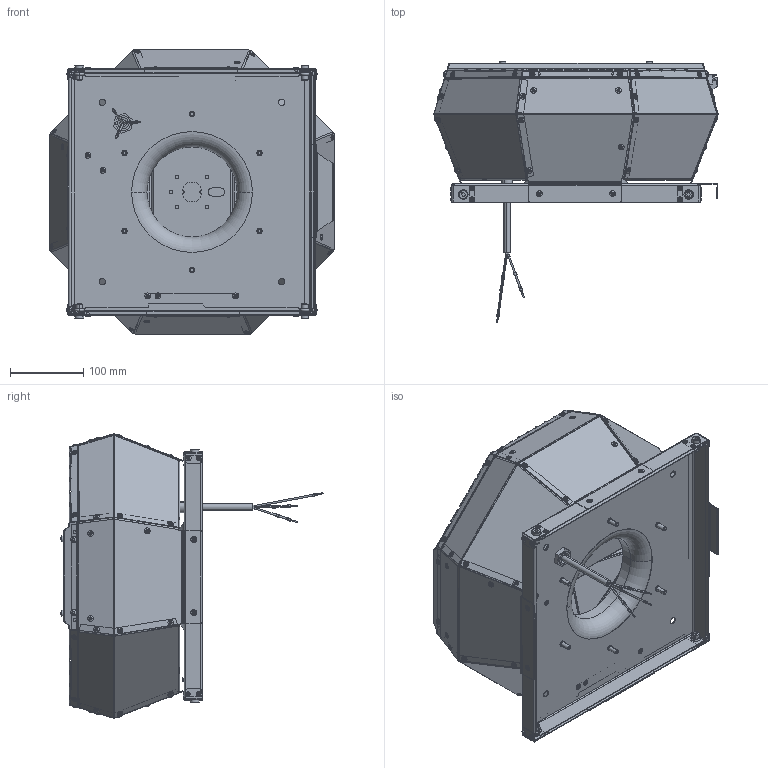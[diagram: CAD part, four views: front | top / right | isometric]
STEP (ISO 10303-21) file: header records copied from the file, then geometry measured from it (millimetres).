
FILE_DESCRIPTION (( 'STEP AP203' ), '1' );
FILE_NAME ('139345-00_DVA190E2P31.STEP', '2017-03-31T13:02:59', ( '' ), ( '' ), 'SwSTEP 2.0', 'SolidWorks 2012', '' );
FILE_SCHEMA (( 'CONFIG_CONTROL_DESIGN' ));
Products named in the file (1): 139345-00_DVA190E2P31
Bounding box: 388.45 x 357.99 x 388.42 mm (x, y, z)
Surface area: 1093033.3 mm2 (no closed solid volume)
Topology: 0 solids, 211 shells, 2691 faces, 8599 edges, 5803 vertices
Faces by surface type: plane 1501, cylinder 775, torus 307, bspline 82, cone 26
Entity records: 97603 total; most frequent: CARTESIAN_POINT 21417, DIRECTION 15933, ORIENTED_EDGE 14120, EDGE_CURVE 8599, VERTEX_POINT 5803, VECTOR 5321, LINE 5321, AXIS2_PLACEMENT_3D 5306
